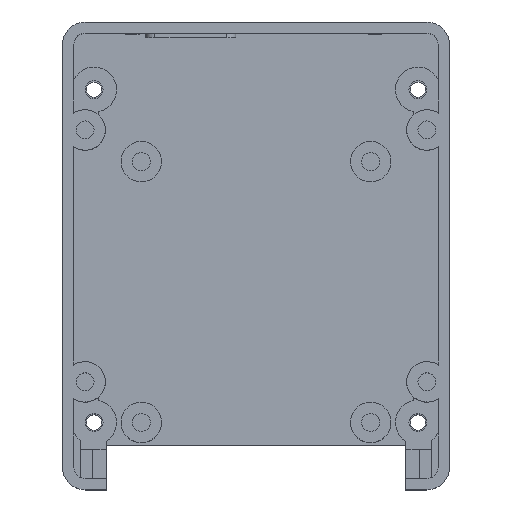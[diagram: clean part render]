
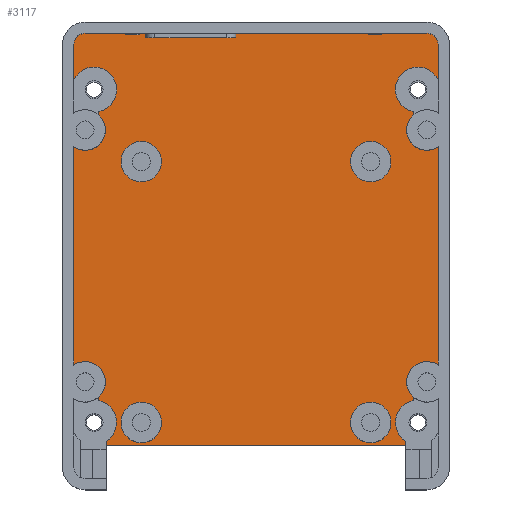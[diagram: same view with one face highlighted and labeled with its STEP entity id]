
A CAD part, top view. The second image highlights one B-rep face of the part: STEP entity #3117.
In plain terms, the highlighted planar face has unit normal (0, 0, 1).
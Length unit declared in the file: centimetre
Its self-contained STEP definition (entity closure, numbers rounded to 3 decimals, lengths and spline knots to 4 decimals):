
#21=FACE_BOUND('',#437,.T.);
#22=FACE_BOUND('',#438,.T.);
#23=FACE_BOUND('',#439,.T.);
#24=FACE_BOUND('',#440,.T.);
#125=CIRCLE('',#3322,0.5);
#126=CIRCLE('',#3323,0.25);
#127=CIRCLE('',#3324,0.25);
#128=CIRCLE('',#3325,0.5);
#129=CIRCLE('',#3326,0.45);
#130=CIRCLE('',#3327,0.45);
#131=CIRCLE('',#3328,0.5);
#132=CIRCLE('',#3329,0.5);
#133=CIRCLE('',#3330,0.45);
#134=CIRCLE('',#3331,0.45);
#135=CIRCLE('',#3332,0.45);
#136=CIRCLE('',#3333,0.45);
#137=CIRCLE('',#3334,0.45);
#138=CIRCLE('',#3335,0.45);
#259=FACE_OUTER_BOUND('',#436,.T.);
#436=EDGE_LOOP('',(#2130,#2131,#2132,#2133,#2134,#2135,#2136,#2137,#2138,
#2139,#2140,#2141,#2142,#2143,#2144,#2145,#2146,#2147,#2148,#2149,#2150,
#2151,#2152,#2153,#2154,#2155,#2156,#2157,#2158,#2159));
#437=EDGE_LOOP('',(#2160));
#438=EDGE_LOOP('',(#2161));
#439=EDGE_LOOP('',(#2162));
#440=EDGE_LOOP('',(#2163));
#636=LINE('',#4584,#968);
#652=LINE('',#4651,#984);
#653=LINE('',#4656,#985);
#654=LINE('',#4660,#986);
#655=LINE('',#4662,#987);
#656=LINE('',#4664,#988);
#657=LINE('',#4666,#989);
#658=LINE('',#4668,#990);
#659=LINE('',#4670,#991);
#660=LINE('',#4672,#992);
#661=LINE('',#4674,#993);
#662=LINE('',#4676,#994);
#663=LINE('',#4680,#995);
#664=LINE('',#4684,#996);
#665=LINE('',#4688,#997);
#666=LINE('',#4692,#998);
#667=LINE('',#4695,#999);
#668=LINE('',#4697,#1000);
#669=LINE('',#4701,#1001);
#670=LINE('',#4705,#1002);
#968=VECTOR('',#3625,1.);
#984=VECTOR('',#3701,1.);
#985=VECTOR('',#3706,1.);
#986=VECTOR('',#3709,1.);
#987=VECTOR('',#3710,1.);
#988=VECTOR('',#3711,1.);
#989=VECTOR('',#3712,1.);
#990=VECTOR('',#3713,1.);
#991=VECTOR('',#3714,1.);
#992=VECTOR('',#3715,1.);
#993=VECTOR('',#3716,1.);
#994=VECTOR('',#3717,1.);
#995=VECTOR('',#3720,1.);
#996=VECTOR('',#3723,1.);
#997=VECTOR('',#3726,1.);
#998=VECTOR('',#3729,1.);
#999=VECTOR('',#3732,1.);
#1000=VECTOR('',#3733,1.);
#1001=VECTOR('',#3736,1.);
#1002=VECTOR('',#3739,1.);
#1299=VERTEX_POINT('',#4581);
#1300=VERTEX_POINT('',#4583);
#1319=VERTEX_POINT('',#4645);
#1321=VERTEX_POINT('',#4649);
#1322=VERTEX_POINT('',#4653);
#1323=VERTEX_POINT('',#4655);
#1324=VERTEX_POINT('',#4657);
#1325=VERTEX_POINT('',#4659);
#1326=VERTEX_POINT('',#4661);
#1327=VERTEX_POINT('',#4663);
#1328=VERTEX_POINT('',#4665);
#1329=VERTEX_POINT('',#4667);
#1330=VERTEX_POINT('',#4669);
#1331=VERTEX_POINT('',#4671);
#1332=VERTEX_POINT('',#4673);
#1333=VERTEX_POINT('',#4675);
#1334=VERTEX_POINT('',#4677);
#1335=VERTEX_POINT('',#4679);
#1336=VERTEX_POINT('',#4681);
#1337=VERTEX_POINT('',#4683);
#1338=VERTEX_POINT('',#4685);
#1339=VERTEX_POINT('',#4687);
#1340=VERTEX_POINT('',#4689);
#1341=VERTEX_POINT('',#4691);
#1342=VERTEX_POINT('',#4694);
#1343=VERTEX_POINT('',#4696);
#1344=VERTEX_POINT('',#4698);
#1345=VERTEX_POINT('',#4700);
#1346=VERTEX_POINT('',#4702);
#1347=VERTEX_POINT('',#4704);
#1348=VERTEX_POINT('',#4707);
#1349=VERTEX_POINT('',#4709);
#1350=VERTEX_POINT('',#4711);
#1351=VERTEX_POINT('',#4713);
#1611=EDGE_CURVE('',#1300,#1299,#636,.T.);
#1643=EDGE_CURVE('',#1319,#1321,#652,.T.);
#1644=EDGE_CURVE('',#1321,#1322,#125,.T.);
#1645=EDGE_CURVE('',#1323,#1322,#653,.T.);
#1646=EDGE_CURVE('',#1324,#1323,#126,.T.);
#1647=EDGE_CURVE('',#1325,#1324,#654,.T.);
#1648=EDGE_CURVE('',#1326,#1325,#655,.T.);
#1649=EDGE_CURVE('',#1327,#1326,#656,.T.);
#1650=EDGE_CURVE('',#1328,#1327,#657,.T.);
#1651=EDGE_CURVE('',#1329,#1328,#658,.T.);
#1652=EDGE_CURVE('',#1330,#1329,#659,.T.);
#1653=EDGE_CURVE('',#1331,#1330,#660,.T.);
#1654=EDGE_CURVE('',#1332,#1331,#661,.T.);
#1655=EDGE_CURVE('',#1333,#1332,#662,.T.);
#1656=EDGE_CURVE('',#1334,#1333,#127,.T.);
#1657=EDGE_CURVE('',#1335,#1334,#663,.T.);
#1658=EDGE_CURVE('',#1335,#1336,#128,.T.);
#1659=EDGE_CURVE('',#1336,#1337,#664,.T.);
#1660=EDGE_CURVE('',#1338,#1337,#129,.T.);
#1661=EDGE_CURVE('',#1339,#1338,#665,.T.);
#1662=EDGE_CURVE('',#1340,#1339,#130,.T.);
#1663=EDGE_CURVE('',#1340,#1341,#666,.T.);
#1664=EDGE_CURVE('',#1341,#1300,#131,.T.);
#1665=EDGE_CURVE('',#1299,#1342,#667,.T.);
#1666=EDGE_CURVE('',#1342,#1343,#668,.T.);
#1667=EDGE_CURVE('',#1343,#1344,#132,.T.);
#1668=EDGE_CURVE('',#1344,#1345,#669,.T.);
#1669=EDGE_CURVE('',#1346,#1345,#133,.T.);
#1670=EDGE_CURVE('',#1347,#1346,#670,.T.);
#1671=EDGE_CURVE('',#1319,#1347,#134,.T.);
#1672=EDGE_CURVE('',#1348,#1348,#135,.T.);
#1673=EDGE_CURVE('',#1349,#1349,#136,.T.);
#1674=EDGE_CURVE('',#1350,#1350,#137,.T.);
#1675=EDGE_CURVE('',#1351,#1351,#138,.T.);
#2130=ORIENTED_EDGE('',*,*,#1643,.T.);
#2131=ORIENTED_EDGE('',*,*,#1644,.T.);
#2132=ORIENTED_EDGE('',*,*,#1645,.F.);
#2133=ORIENTED_EDGE('',*,*,#1646,.F.);
#2134=ORIENTED_EDGE('',*,*,#1647,.F.);
#2135=ORIENTED_EDGE('',*,*,#1648,.F.);
#2136=ORIENTED_EDGE('',*,*,#1649,.F.);
#2137=ORIENTED_EDGE('',*,*,#1650,.F.);
#2138=ORIENTED_EDGE('',*,*,#1651,.F.);
#2139=ORIENTED_EDGE('',*,*,#1652,.F.);
#2140=ORIENTED_EDGE('',*,*,#1653,.F.);
#2141=ORIENTED_EDGE('',*,*,#1654,.F.);
#2142=ORIENTED_EDGE('',*,*,#1655,.F.);
#2143=ORIENTED_EDGE('',*,*,#1656,.F.);
#2144=ORIENTED_EDGE('',*,*,#1657,.F.);
#2145=ORIENTED_EDGE('',*,*,#1658,.T.);
#2146=ORIENTED_EDGE('',*,*,#1659,.T.);
#2147=ORIENTED_EDGE('',*,*,#1660,.F.);
#2148=ORIENTED_EDGE('',*,*,#1661,.F.);
#2149=ORIENTED_EDGE('',*,*,#1662,.F.);
#2150=ORIENTED_EDGE('',*,*,#1663,.T.);
#2151=ORIENTED_EDGE('',*,*,#1664,.T.);
#2152=ORIENTED_EDGE('',*,*,#1611,.T.);
#2153=ORIENTED_EDGE('',*,*,#1665,.T.);
#2154=ORIENTED_EDGE('',*,*,#1666,.T.);
#2155=ORIENTED_EDGE('',*,*,#1667,.T.);
#2156=ORIENTED_EDGE('',*,*,#1668,.T.);
#2157=ORIENTED_EDGE('',*,*,#1669,.F.);
#2158=ORIENTED_EDGE('',*,*,#1670,.F.);
#2159=ORIENTED_EDGE('',*,*,#1671,.F.);
#2160=ORIENTED_EDGE('',*,*,#1672,.F.);
#2161=ORIENTED_EDGE('',*,*,#1673,.F.);
#2162=ORIENTED_EDGE('',*,*,#1674,.F.);
#2163=ORIENTED_EDGE('',*,*,#1675,.F.);
#2998=PLANE('',#3321);
#3117=ADVANCED_FACE('',(#259,#21,#22,#23,#24),#2998,.F.);
#3321=AXIS2_PLACEMENT_3D('',#4652,#3702,#3703);
#3322=AXIS2_PLACEMENT_3D('',#4654,#3704,#3705);
#3323=AXIS2_PLACEMENT_3D('',#4658,#3707,#3708);
#3324=AXIS2_PLACEMENT_3D('',#4678,#3718,#3719);
#3325=AXIS2_PLACEMENT_3D('',#4682,#3721,#3722);
#3326=AXIS2_PLACEMENT_3D('',#4686,#3724,#3725);
#3327=AXIS2_PLACEMENT_3D('',#4690,#3727,#3728);
#3328=AXIS2_PLACEMENT_3D('',#4693,#3730,#3731);
#3329=AXIS2_PLACEMENT_3D('',#4699,#3734,#3735);
#3330=AXIS2_PLACEMENT_3D('',#4703,#3737,#3738);
#3331=AXIS2_PLACEMENT_3D('',#4706,#3740,#3741);
#3332=AXIS2_PLACEMENT_3D('',#4708,#3742,#3743);
#3333=AXIS2_PLACEMENT_3D('',#4710,#3744,#3745);
#3334=AXIS2_PLACEMENT_3D('',#4712,#3746,#3747);
#3335=AXIS2_PLACEMENT_3D('',#4714,#3748,#3749);
#3625=DIRECTION('',(0.,-1.,0.));
#3701=DIRECTION('',(0.,1.,0.));
#3702=DIRECTION('center_axis',(0.,0.,-1.));
#3703=DIRECTION('ref_axis',(-1.,0.,0.));
#3704=DIRECTION('center_axis',(0.,0.,-1.));
#3705=DIRECTION('ref_axis',(1.,0.,0.));
#3706=DIRECTION('',(0.,-1.,0.));
#3707=DIRECTION('center_axis',(0.,0.,-1.));
#3708=DIRECTION('ref_axis',(0.,1.,0.));
#3709=DIRECTION('',(1.,0.,0.));
#3710=DIRECTION('',(0.,1.,0.));
#3711=DIRECTION('',(1.,0.,0.));
#3712=DIRECTION('',(0.,-1.,0.));
#3713=DIRECTION('',(1.,0.,0.));
#3714=DIRECTION('',(0.,1.,0.));
#3715=DIRECTION('',(1.,0.,0.));
#3716=DIRECTION('',(0.,-1.,0.));
#3717=DIRECTION('',(1.,0.,0.));
#3718=DIRECTION('center_axis',(0.,0.,-1.));
#3719=DIRECTION('ref_axis',(-1.,0.,0.));
#3720=DIRECTION('',(0.,1.,0.));
#3721=DIRECTION('center_axis',(0.,0.,-1.));
#3722=DIRECTION('ref_axis',(1.,0.,0.));
#3723=DIRECTION('',(0.,-1.,0.));
#3724=DIRECTION('center_axis',(0.,0.,1.));
#3725=DIRECTION('ref_axis',(-1.,0.,0.));
#3726=DIRECTION('',(0.,1.,0.));
#3727=DIRECTION('center_axis',(0.,0.,1.));
#3728=DIRECTION('ref_axis',(-1.,0.,0.));
#3729=DIRECTION('',(0.,-1.,0.));
#3730=DIRECTION('center_axis',(0.,0.,-1.));
#3731=DIRECTION('ref_axis',(1.,0.,0.));
#3732=DIRECTION('',(1.,0.,0.));
#3733=DIRECTION('',(0.,1.,0.));
#3734=DIRECTION('center_axis',(0.,0.,-1.));
#3735=DIRECTION('ref_axis',(1.,0.,0.));
#3736=DIRECTION('',(0.,1.,0.));
#3737=DIRECTION('center_axis',(0.,0.,1.));
#3738=DIRECTION('ref_axis',(-1.,0.,0.));
#3739=DIRECTION('',(0.,-1.,0.));
#3740=DIRECTION('center_axis',(0.,0.,1.));
#3741=DIRECTION('ref_axis',(-1.,0.,0.));
#3742=DIRECTION('center_axis',(0.,0.,1.));
#3743=DIRECTION('ref_axis',(-1.,0.,0.));
#3744=DIRECTION('center_axis',(0.,0.,1.));
#3745=DIRECTION('ref_axis',(-1.,0.,0.));
#3746=DIRECTION('center_axis',(0.,0.,1.));
#3747=DIRECTION('ref_axis',(-1.,0.,0.));
#3748=DIRECTION('center_axis',(0.,0.,1.));
#3749=DIRECTION('ref_axis',(-1.,0.,0.));
#4581=CARTESIAN_POINT('',(-3.33,-4.2,0.25));
#4583=CARTESIAN_POINT('',(-3.33,-4.1208,0.25));
#4584=CARTESIAN_POINT('',(-3.33,-2.6,0.25));
#4645=CARTESIAN_POINT('',(3.5,3.1354,0.25));
#4649=CARTESIAN_POINT('',(3.5,3.2101,0.25));
#4651=CARTESIAN_POINT('',(3.5,1.85,0.25));
#4652=CARTESIAN_POINT('Origin',(0.,0.,0.25));
#4653=CARTESIAN_POINT('',(4.05,3.9179,0.25));
#4654=CARTESIAN_POINT('Origin',(3.6,3.7,0.25));
#4655=CARTESIAN_POINT('',(4.05,4.7,0.25));
#4656=CARTESIAN_POINT('',(4.05,4.7,0.25));
#4657=CARTESIAN_POINT('',(3.8,4.95,0.25));
#4658=CARTESIAN_POINT('Origin',(3.8,4.7,0.25));
#4659=CARTESIAN_POINT('',(2.8,4.95,0.25));
#4660=CARTESIAN_POINT('',(-3.8,4.95,0.25));
#4661=CARTESIAN_POINT('',(2.8,4.92,0.25));
#4662=CARTESIAN_POINT('',(2.8,2.525,0.25));
#4663=CARTESIAN_POINT('',(2.5,4.92,0.25));
#4664=CARTESIAN_POINT('',(1.4,4.92,0.25));
#4665=CARTESIAN_POINT('',(2.5,4.95,0.25));
#4666=CARTESIAN_POINT('',(2.5,2.46,0.25));
#4667=CARTESIAN_POINT('',(-2.6,4.95,0.25));
#4668=CARTESIAN_POINT('',(-3.8,4.95,0.25));
#4669=CARTESIAN_POINT('',(-2.6,4.92,0.25));
#4670=CARTESIAN_POINT('',(-2.6,2.525,0.25));
#4671=CARTESIAN_POINT('',(-2.9,4.92,0.25));
#4672=CARTESIAN_POINT('',(-1.3,4.92,0.25));
#4673=CARTESIAN_POINT('',(-2.9,4.95,0.25));
#4674=CARTESIAN_POINT('',(-2.9,2.46,0.25));
#4675=CARTESIAN_POINT('',(-3.8,4.95,0.25));
#4676=CARTESIAN_POINT('',(-3.8,4.95,0.25));
#4677=CARTESIAN_POINT('',(-4.05,4.7,0.25));
#4678=CARTESIAN_POINT('Origin',(-3.8,4.7,0.25));
#4679=CARTESIAN_POINT('',(-4.05,3.9179,0.25));
#4680=CARTESIAN_POINT('',(-4.05,-4.7,0.25));
#4681=CARTESIAN_POINT('',(-3.5,3.2101,0.25));
#4682=CARTESIAN_POINT('Origin',(-3.6,3.7,0.25));
#4683=CARTESIAN_POINT('',(-3.5,3.1354,0.25));
#4684=CARTESIAN_POINT('',(-3.5,1.4,0.25));
#4685=CARTESIAN_POINT('',(-4.05,2.4258,0.25));
#4686=CARTESIAN_POINT('Origin',(-3.8,2.8,0.25));
#4687=CARTESIAN_POINT('',(-4.05,-2.4258,0.25));
#4688=CARTESIAN_POINT('',(-4.05,-4.7,0.25));
#4689=CARTESIAN_POINT('',(-3.5,-3.1354,0.25));
#4690=CARTESIAN_POINT('Origin',(-3.8,-2.8,0.25));
#4691=CARTESIAN_POINT('',(-3.5,-3.2101,0.25));
#4692=CARTESIAN_POINT('',(-3.5,-1.85,0.25));
#4693=CARTESIAN_POINT('Origin',(-3.6,-3.7,0.25));
#4694=CARTESIAN_POINT('',(3.33,-4.2,0.25));
#4695=CARTESIAN_POINT('',(1.665,-4.2,0.25));
#4696=CARTESIAN_POINT('',(3.33,-4.1208,0.25));
#4697=CARTESIAN_POINT('',(3.33,-2.025,0.25));
#4698=CARTESIAN_POINT('',(3.5,-3.2101,0.25));
#4699=CARTESIAN_POINT('Origin',(3.6,-3.7,0.25));
#4700=CARTESIAN_POINT('',(3.5,-3.1354,0.25));
#4701=CARTESIAN_POINT('',(3.5,-1.4,0.25));
#4702=CARTESIAN_POINT('',(4.05,-2.4258,0.25));
#4703=CARTESIAN_POINT('Origin',(3.8,-2.8,0.25));
#4704=CARTESIAN_POINT('',(4.05,2.4258,0.25));
#4705=CARTESIAN_POINT('',(4.05,4.7,0.25));
#4706=CARTESIAN_POINT('Origin',(3.8,2.8,0.25));
#4707=CARTESIAN_POINT('',(-2.1,-3.7,0.25));
#4708=CARTESIAN_POINT('Origin',(-2.55,-3.7,0.25));
#4709=CARTESIAN_POINT('',(3.,2.1,0.25));
#4710=CARTESIAN_POINT('Origin',(2.55,2.1,0.25));
#4711=CARTESIAN_POINT('',(3.,-3.7,0.25));
#4712=CARTESIAN_POINT('Origin',(2.55,-3.7,0.25));
#4713=CARTESIAN_POINT('',(-2.1,2.1,0.25));
#4714=CARTESIAN_POINT('Origin',(-2.55,2.1,0.25));
